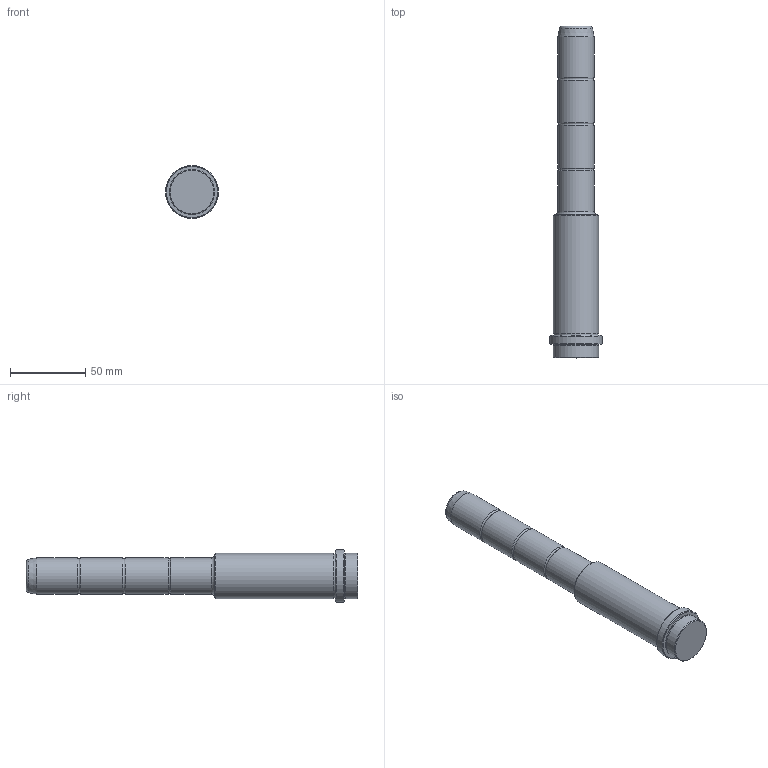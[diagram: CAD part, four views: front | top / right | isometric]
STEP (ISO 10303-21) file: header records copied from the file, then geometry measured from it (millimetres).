
FILE_DESCRIPTION( ( 'STEP AP203' ), '1' );
FILE_NAME( 'D:/Cuma/24 03 2009/D03/D03_24X86X125.step', '2002-12-31T23:22:04', ( ' ' ), ( ' ' ), 'XStep 1.0', ' ', ' ' );
FILE_SCHEMA( ( 'CONFIG_CONTROL_DESIGN' ) );
Length unit declared in the file: metre
Products named in the file (1): 1
Bounding box: 35 x 220 x 35 mm (x, y, z)
Volume: 124713.4 mm3; surface area: 20225.1 mm2
Topology: 1 solids, 1 shells, 26 faces, 47 edges, 28 vertices
Faces by surface type: cylinder 9, plane 7, torus 5, cone 5
Full cylindrical faces by diameter (mm): 24 x4, 29.5 x2, 30 x2, 35 x1
Entity records: 559 total; most frequent: DIRECTION 104, CARTESIAN_POINT 77, AXIS2_PLACEMENT_3D 52, EDGE_LOOP 50, ORIENTED_EDGE 50, FACE_OUTER_BOUND 40, ADVANCED_FACE 26, EDGE_CURVE 25
